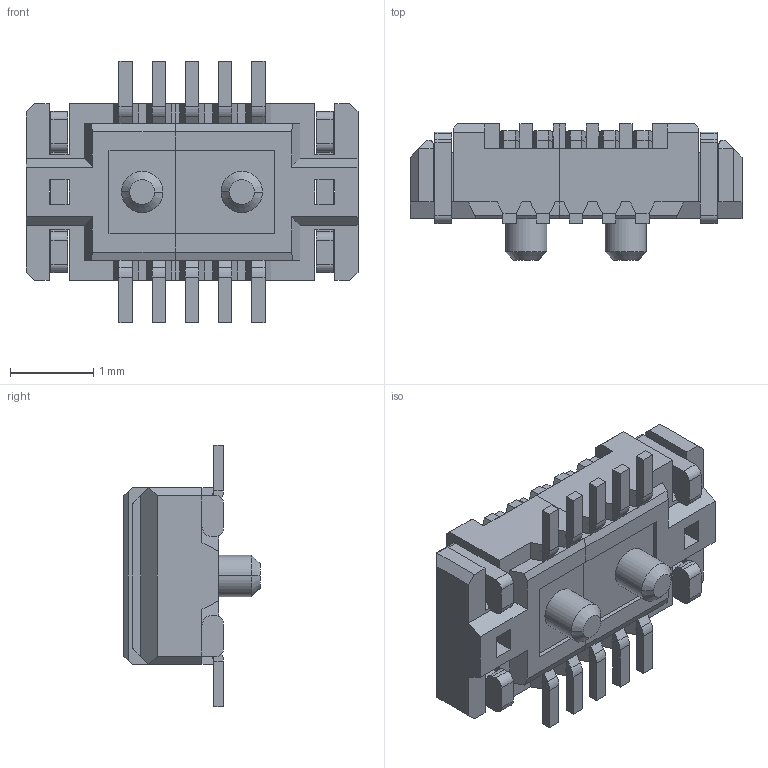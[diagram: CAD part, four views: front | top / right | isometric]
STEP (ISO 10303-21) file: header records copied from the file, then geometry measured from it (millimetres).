
FILE_DESCRIPTION((''),'2;1');
FILE_NAME('50185-010XX-001','2010-09-17T',('alexchen'),(''),'PRO/ENGINEER BY PARAMETRIC TECHNOLOGY CORPORATION, 2007450','PRO/ENGINEER BY PARAMETRIC TECHNOLOGY CORPORATION, 2007450','');
FILE_SCHEMA(('CONFIG_CONTROL_DESIGN', 'GEOMETRIC_VALIDATION_PROPERTIES_MIM'));
Length unit declared in the file: millimetre
Products named in the file (1): 50185-010XX-001
Bounding box: 4 x 1.64 x 3.15 mm (x, y, z)
Surface area: 68.7 mm2 (no closed solid volume)
Topology: 0 solids, 14 shells, 1340 faces, 3512 edges, 2160 vertices
Faces by surface type: plane 818, cylinder 470, bspline 40, cone 8, torus 4
Entity records: 52136 total; most frequent: CARTESIAN_POINT 8633, ORIENTED_EDGE 6984, DIRECTION 6896, EDGE_CURVE 3512, PRESENTATION_STYLE_ASSIGNMENT 2642, STYLED_ITEM 2642, VECTOR 2440, LINE 2440
